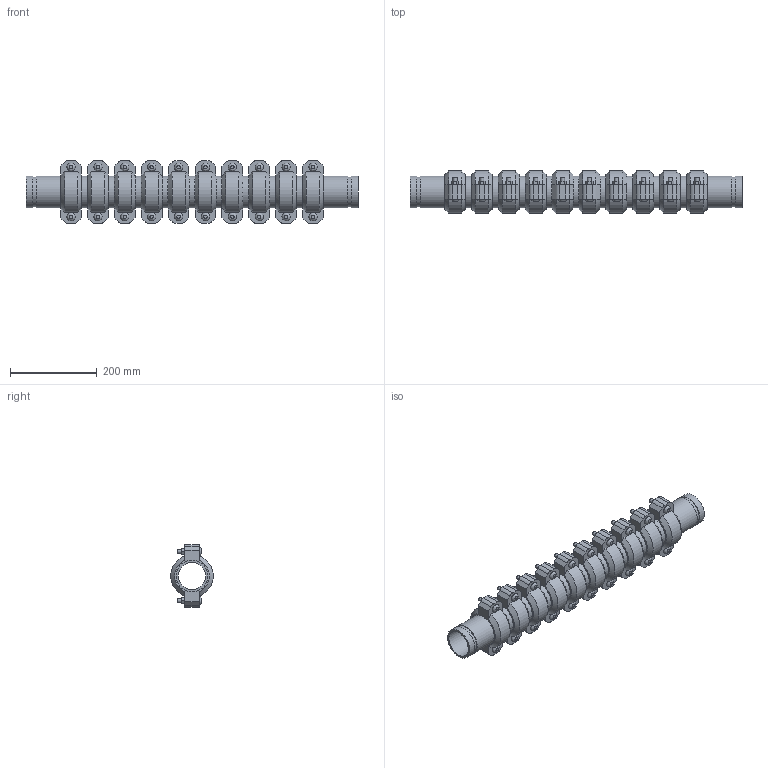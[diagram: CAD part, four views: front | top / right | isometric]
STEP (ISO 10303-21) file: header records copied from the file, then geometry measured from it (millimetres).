
FILE_DESCRIPTION(/* description */ ('VIC EXPANSION JOINT 10 COUPLINGS EXPANDED STYLE 155 (OGS)','CAx-IF Rec.Pracs.---Representation and Presentation of Product Manufacturing Information (PMI)---4.0---2014-10-13'),/* implementation_level */ '2;1');
FILE_NAME(/* name */ 'C:\Users\kkamble\AppData\Roaming\Autodesk\ApplicationPlugins\Victaulic.Temp\A992\Victaulic_IPS_Expansion Joint_Expanded_10 Couplings_Style 155 (OGS)_2.5 (65).stp',/* time_stamp */ '2021-06-26T23:49:33+02:00',/* author */ ('kkamble'),/* organization */ ('Victaulic'),/* preprocessor_version */ 'ST-DEVELOPER v17.2',/* originating_system */ 'Autodesk Inventor 2019',/* authorisation */ '');
FILE_SCHEMA (('AP242_MANAGED_MODEL_BASED_3D_ENGINEERING_MIM_LF { 1 0 10303 442 1 1 4 }'));
Length unit declared in the file: inch
Products named in the file (4): 155-02.5; Nipple-02.5; Nipple-02.5_1; 075-02.5
Assembly tree (21 placements, depth 2):
  155-02.5
    Nipple-02.5  x2
    Nipple-02.5_1  x9
    075-02.5  x10
Bounding box: 765.3 x 98.22 x 144.27 mm (x, y, z)
Volume: 2847170.5 mm3; surface area: 801614.9 mm2
Topology: 21 solids, 41 shells, 702 faces, 1660 edges, 1164 vertices
Faces by surface type: plane 426, cylinder 216, cone 40, bspline 20
Full cylindrical faces by diameter (mm): 9.525 x40, 11.43 x20, 63.475 x11, 66.675 x10, 69.088 x22, 73.025 x53
Entity records: 2881 total; most frequent: CARTESIAN_POINT 505, DIRECTION 485, ORIENTED_EDGE 386, AXIS2_PLACEMENT_3D 196, EDGE_CURVE 193, VERTEX_POINT 138, EDGE_LOOP 107, LINE 93
